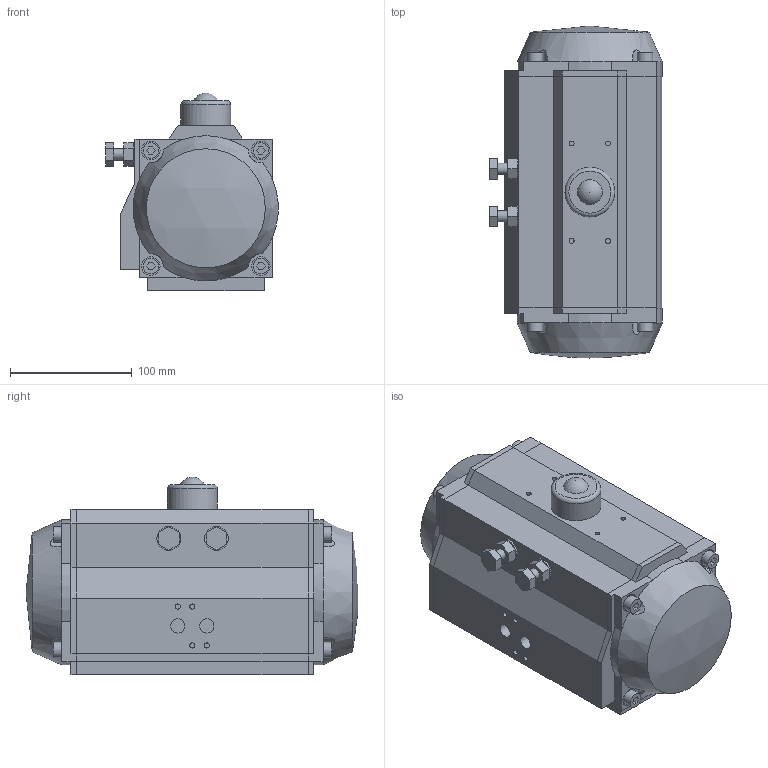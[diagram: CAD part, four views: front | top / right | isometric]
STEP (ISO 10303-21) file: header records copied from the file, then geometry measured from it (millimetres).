
FILE_DESCRIPTION((' '),'2;1');
FILE_NAME('N:\Technical Support\Private\Jomar Valve CAD\Actuation\JV\JV-100FusionCopy.stp','2017-06-05T10:52:49',(' '),(' '),' ','ACIS',' ');
FILE_SCHEMA(('CONFIG_CONTROL_DESIGN'));
Length unit declared in the file: inch
Products named in the file (24): N:\Technical Support\Private\Jomar Valve CAD\Actuation\JV\JV-100FusionCopy.stp; Body1; Body2; Body3; Body4; Body5; Body6; Body7; Body8; Body9; Body10; Body11; Body12; Body13; Body14; Body15; Body16; Body17; Body18; Body19; Body20; Body21; Body22; Body23
Assembly tree (23 placements, depth 2):
  N:\Technical Support\Private\Jomar Valve CAD\Actuation\JV\JV-100FusionCopy.stp
    Body1
    Body2
    Body3
    Body4
    Body5
    Body6
    Body7
    Body8
    Body9
    Body10
    Body11
    Body12
    Body13
    Body14
    Body15
    Body16
    Body17
    Body18
    Body19
    Body20
    Body21
    Body22
    Body23
Bounding box: 141.59 x 272.8 x 162.43 mm (x, y, z)
Volume: 3764368.4 mm3; surface area: 256798.2 mm2
Topology: 23 solids, 23 shells, 318 faces, 686 edges, 452 vertices
Faces by surface type: plane 159, bspline 111, cylinder 43, sphere 2, cone 2, torus 1
Full cylindrical faces by diameter (mm): 4.064 x2, 4.191 x4, 5.08 x1, 8 x4, 9.144 x1, 10 x4, 11.684 x2, 12.827 x4, 15.24 x4, 19.685 x1, 19.939 x1, 30.353 x1, 30.988 x1, 40.894 x1, 46.228 x1
Entity records: 12145 total; most frequent: CARTESIAN_POINT 2257, ORIENTED_EDGE 1262, DIRECTION 1256, EDGE_CURVE 631, VECTOR 466, LINE 466, VERTEX_POINT 447, EDGE_LOOP 408
